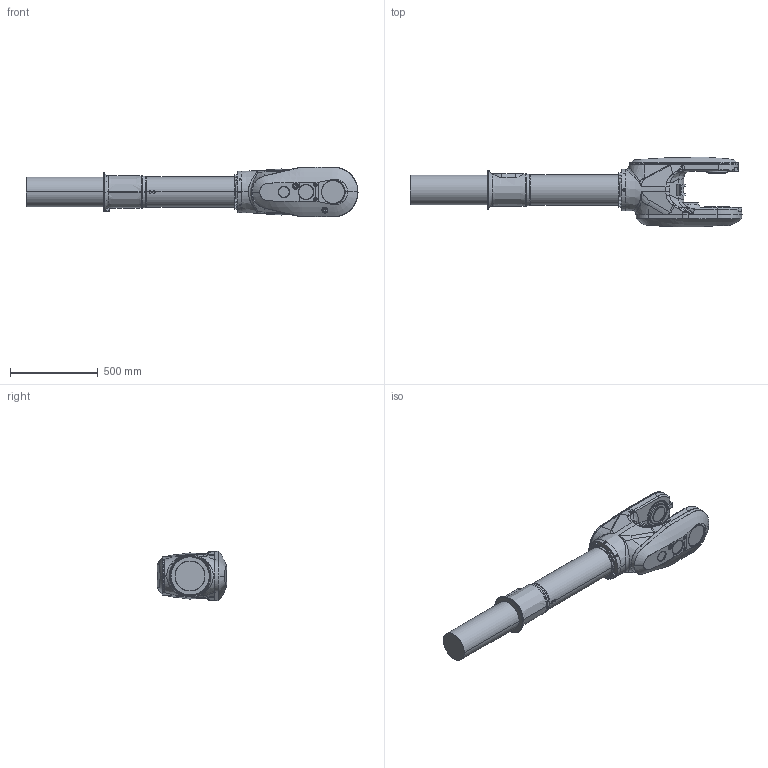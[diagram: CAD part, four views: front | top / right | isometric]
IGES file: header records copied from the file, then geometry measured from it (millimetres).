
Start section: SolidWorks IGES file using analytic representation for surfaces
Global section: file name: C:\DATA\SAP_DOC\LW\IRB 6730S\IRB6730S_210kg-350_OC_01_SW_J\export\IRB6730S_210kg-350_OC_01_IGES_J\IRB6730S_All-350_OC_00_LINK04_CAD.igs; native system: SolidWorks 2024; preprocessor: SolidWorks 2024; author: SEJOVAS3; date: 260526.123314; units: millimetre
Bounding box: 1887.5 x 395.55 x 284 mm (x, y, z)
Surface area: 1601589 mm2 (no closed solid volume)
Topology: 0 solids, 0 shells, 727 faces, 13345 edges, 13320 vertices
Faces by surface type: bspline 426, revolution 301
